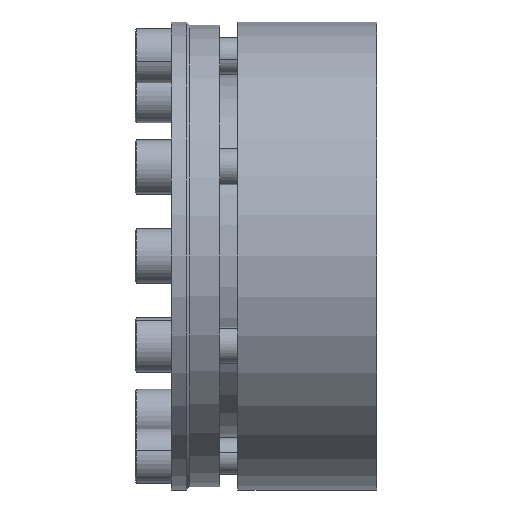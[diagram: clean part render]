
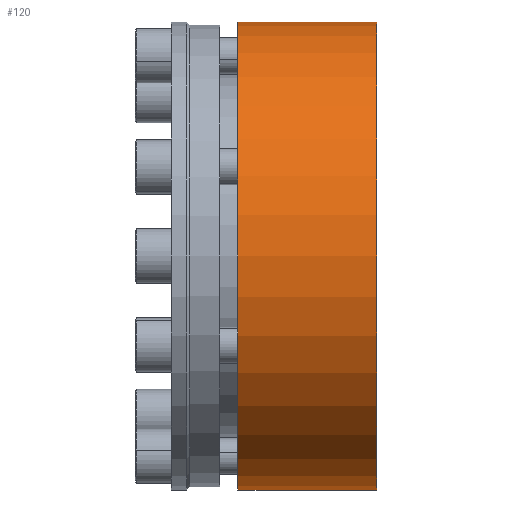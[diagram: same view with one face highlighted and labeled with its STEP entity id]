
A CAD part, front view. The second image highlights one B-rep face of the part: STEP entity #120.
In plain terms, the highlighted cylindrical face has radius 77.5 mm (diameter 155 mm), a partial arc.
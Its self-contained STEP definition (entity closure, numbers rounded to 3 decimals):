
#45 = ORIENTED_EDGE ( 'NONE', *, *, #1546, .F. ) ;
#46 = ORIENTED_EDGE ( 'NONE', *, *, #1601, .T. ) ;
#99 = ORIENTED_EDGE ( 'NONE', *, *, #1522, .T. ) ;
#100 = ORIENTED_EDGE ( 'NONE', *, *, #119, .F. ) ;
#119 = EDGE_CURVE ( 'NONE', #1464, #1520, #1821, .T. ) ;
#120 = ADVANCED_FACE ( 'NONE', ( #1817 ), #1816, .T. ) ;
#121 = EDGE_LOOP ( 'NONE', ( #45, #46, #99, #100 ) ) ;
#1464 = VERTEX_POINT ( 'NONE', #4088 ) ;
#1520 = VERTEX_POINT ( 'NONE', #4175 ) ;
#1522 = EDGE_CURVE ( 'NONE', #1543, #1520, #4174, .T. ) ;
#1543 = VERTEX_POINT ( 'NONE', #4247 ) ;
#1544 = VERTEX_POINT ( 'NONE', #4246 ) ;
#1546 = EDGE_CURVE ( 'NONE', #1544, #1464, #4245, .T. ) ;
#1601 = EDGE_CURVE ( 'NONE', #1544, #1543, #4345, .T. ) ;
#1811 = DIRECTION ( 'NONE',  ( 0., 0., 1. ) ) ;
#1812 = DIRECTION ( 'NONE',  ( -1., 0., 0. ) ) ;
#1813 = CARTESIAN_POINT ( 'NONE',  ( 0., 0., 0. ) ) ;
#1814 = AXIS2_PLACEMENT_3D ( 'NONE', #1813, #1812, #1811 ) ;
#1816 = CYLINDRICAL_SURFACE ( 'NONE', #1814, 77.5 ) ;
#1817 = FACE_OUTER_BOUND ( 'NONE', #121, .T. ) ;
#1818 = DIRECTION ( 'NONE',  ( 0., 0., 1. ) ) ;
#1819 = DIRECTION ( 'NONE',  ( -1., 0., 0. ) ) ;
#1820 = AXIS2_PLACEMENT_3D ( 'NONE', #1827, #1819, #1818 ) ;
#1821 = CIRCLE ( 'NONE', #1820, 77.5 ) ;
#1827 = CARTESIAN_POINT ( 'NONE',  ( 22., 0., 0. ) ) ;
#4088 = CARTESIAN_POINT ( 'NONE',  ( 22., 0., -77.5 ) ) ;
#4171 = DIRECTION ( 'NONE',  ( -1., 0., 0. ) ) ;
#4172 = VECTOR ( 'NONE', #4171, 1000. ) ;
#4173 = CARTESIAN_POINT ( 'NONE',  ( 0., 0., 77.5 ) ) ;
#4174 = LINE ( 'NONE', #4173, #4172 ) ;
#4175 = CARTESIAN_POINT ( 'NONE',  ( 22., 0., 77.5 ) ) ;
#4242 = DIRECTION ( 'NONE',  ( -1., 0., 0. ) ) ;
#4243 = VECTOR ( 'NONE', #4242, 1000. ) ;
#4244 = CARTESIAN_POINT ( 'NONE',  ( 0., 0., -77.5 ) ) ;
#4245 = LINE ( 'NONE', #4244, #4243 ) ;
#4246 = CARTESIAN_POINT ( 'NONE',  ( 68., 0., -77.5 ) ) ;
#4247 = CARTESIAN_POINT ( 'NONE',  ( 68., 0., 77.5 ) ) ;
#4341 = DIRECTION ( 'NONE',  ( 0., 0., 1. ) ) ;
#4342 = DIRECTION ( 'NONE',  ( -1., 0., 0. ) ) ;
#4343 = CARTESIAN_POINT ( 'NONE',  ( 68., 0., 0. ) ) ;
#4344 = AXIS2_PLACEMENT_3D ( 'NONE', #4343, #4342, #4341 ) ;
#4345 = CIRCLE ( 'NONE', #4344, 77.5 ) ;
